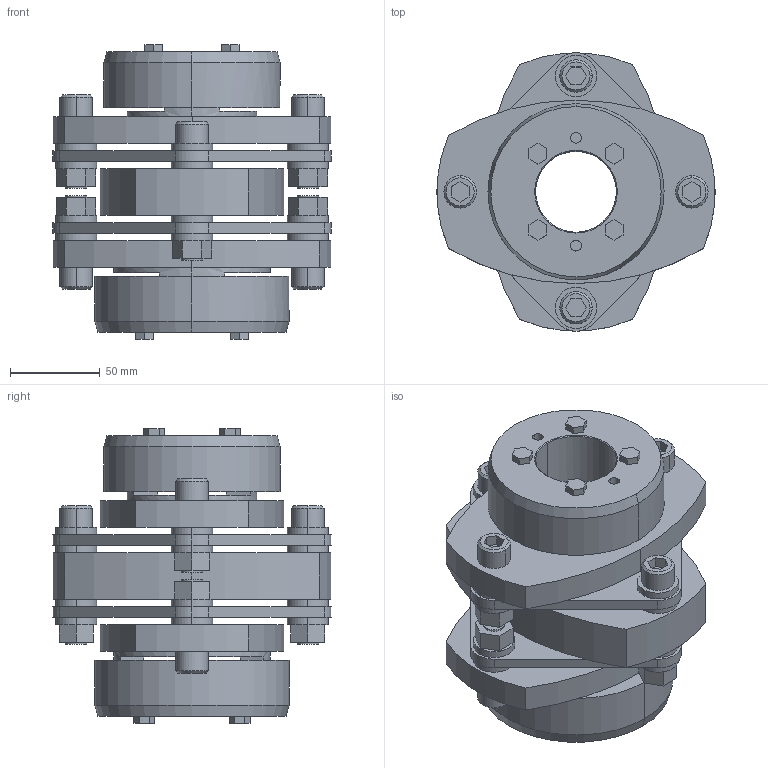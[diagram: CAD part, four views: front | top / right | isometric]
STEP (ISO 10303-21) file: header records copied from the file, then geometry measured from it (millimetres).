
FILE_DESCRIPTION((''),'2;1');
FILE_NAME('LCD-155T7-45×60.stp','2011-09-08T14:53:51',(''),(''),'AutoCAD STEP 2000i','AutoCAD 2000i',', , ');
FILE_SCHEMA(('CONFIG_CONTROL_DESIGN'));
Length unit declared in the file: millimetre
Products named in the file (8): LCD-155T7-45×60; 忣兜1; LC155T7-T060; LC155T7-T055; LC155T7-T050; LC155T7-T045-1; LC155T7-T045; LCD155-ITA
Assembly tree (7 placements, depth 2):
  LCD-155T7-45×60
    忣兜1
    LC155T7-T060
    LC155T7-T055
    LC155T7-T050
    LC155T7-T045-1
    LC155T7-T045
    LCD155-ITA
Bounding box: 155 x 154.9 x 164 mm (x, y, z)
Volume: 1187098.2 mm3; surface area: 211264.9 mm2
Topology: 1 solids, 1 shells, 334 faces, 818 edges, 538 vertices
Faces by surface type: plane 190, cylinder 120, cone 24
Entity records: 10113 total; most frequent: DIRECTION 1784, CARTESIAN_POINT 1698, ORIENTED_EDGE 1636, EDGE_CURVE 818, AXIS2_PLACEMENT_3D 624, VERTEX_POINT 538, VECTOR 536, LINE 536
